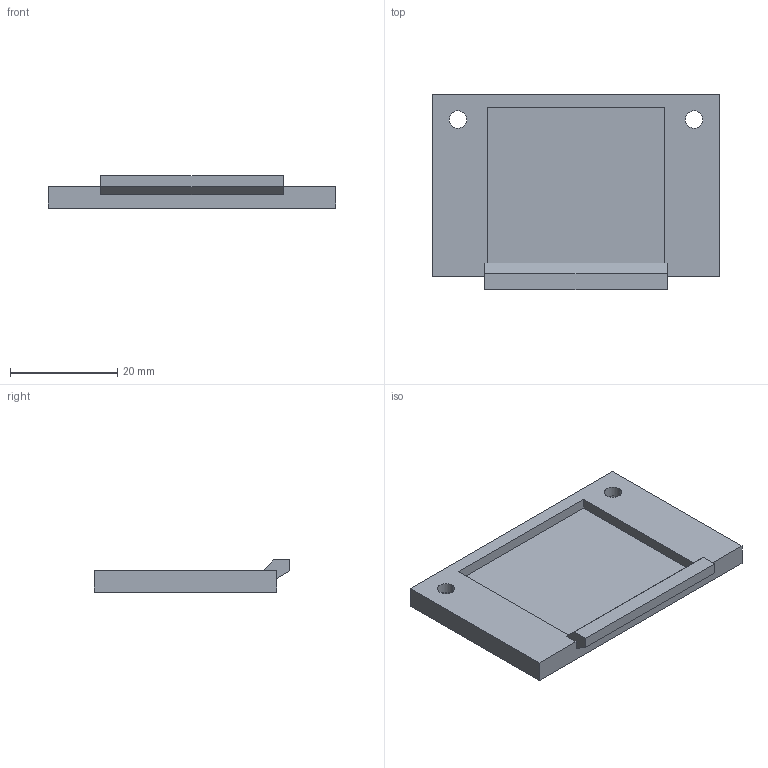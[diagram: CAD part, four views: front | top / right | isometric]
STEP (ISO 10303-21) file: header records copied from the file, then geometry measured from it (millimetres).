
FILE_DESCRIPTION (( 'STEP AP203' ), '1' );
FILE_NAME ('BATTERY_HOLDER_COVER.STEP', '2021-09-09T14:24:03', ( '' ), ( '' ), 'SwSTEP 2.0', 'SolidWorks 2020', '' );
FILE_SCHEMA (( 'CONFIG_CONTROL_DESIGN' ));
Length unit declared in the file: millimetre
Products named in the file (1): BATTERY_HOLDER_COVER
Bounding box: 53.5 x 36.5 x 6 mm (x, y, z)
Volume: 5534.2 mm3; surface area: 4925.5 mm2
Topology: 1 solids, 1 shells, 27 faces, 67 edges, 44 vertices
Faces by surface type: plane 19, cylinder 8
Entity records: 886 total; most frequent: DIRECTION 139, CARTESIAN_POINT 139, ORIENTED_EDGE 134, EDGE_CURVE 67, VECTOR 51, LINE 51, VERTEX_POINT 44, AXIS2_PLACEMENT_3D 44
